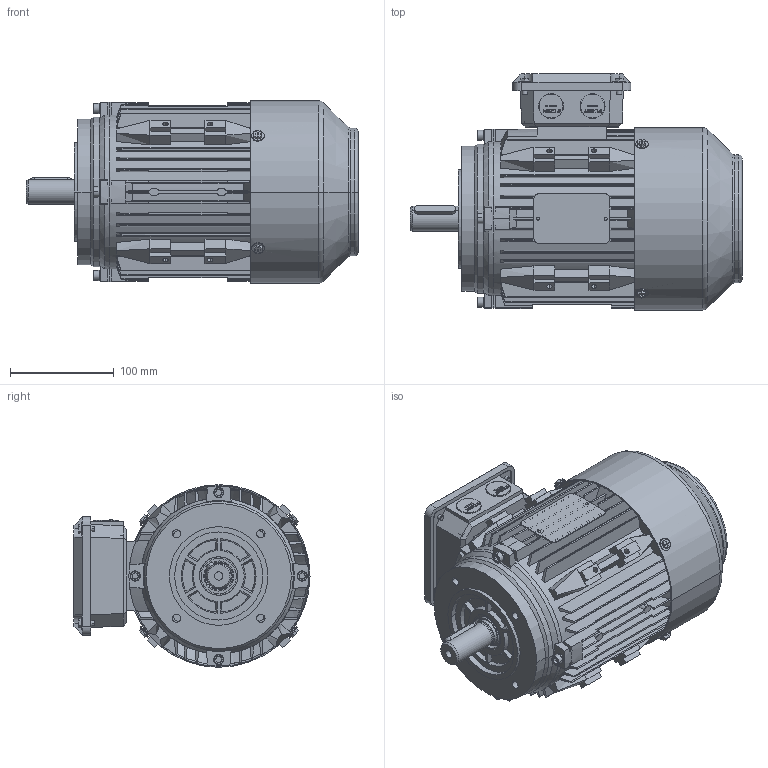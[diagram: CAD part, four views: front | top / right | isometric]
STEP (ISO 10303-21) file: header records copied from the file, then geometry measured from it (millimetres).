
FILE_DESCRIPTION (( 'STEP AP203' ), '1' );
FILE_NAME ('TC 90S B14 装配体.STEP', '2014-05-12T07:12:55', ( '微软用户' ), ( '微软中国' ), 'SwSTEP 2.0', 'SolidWorks 2008', '' );
FILE_SCHEMA (( 'CONFIG_CONTROL_DESIGN' ));
Products named in the file (22): TC 90S 转子_默认; TC 90S B14 蚾饜极; T90-4无轴转子_默认; 6205_默认; TC 80-90风叶_默认; 风罩_默认; M6-20_默认; TC 90平键_默认; 油封25-37-7_默认; TC 90S 机座 B5_默认; TC 90 B3端盖_默认; T90-4定子铁心_默认; TC 90S转轴（波形垫在前）_默认; TC 90 B14端盖_默认; TC 90-100 接线盒座_默认; TC 90-100 接线盒盖_默认; 6_默认; 5_默认; 镜向M5-12_默认; 镜向5_默认; M5-12_默认; M20螺塞_默认
Assembly tree (46 placements, depth 3):
  TC 90S B14 蚾饜极
    6_默认  x8
    TC 90-100 接线盒座_默认
    TC 90S 转子_默认
      TC 90S转轴（波形垫在前）_默认
      T90-4无轴转子_默认
      6205_默认  x2
    TC 90S 机座 B5_默认
    T90-4定子铁心_默认
    油封25-37-7_默认  x2
    M5-12_默认  x6
    M20螺塞_默认  x2
    TC 80-90风叶_默认
    M6-20_默认  x8
    TC 90 B14端盖_默认
    5_默认  x2
    TC 90-100 接线盒盖_默认
    镜向5_默认  x2
    TC 90 B3端盖_默认
    镜向M5-12_默认  x2
    风罩_默认
    TC 90平键_默认
Bounding box: 320 x 227.5 x 176 mm (x, y, z)
Volume: 2076568.2 mm3; surface area: 841728.9 mm2
Topology: 49 solids, 50 shells, 3287 faces, 8799 edges, 5732 vertices
Faces by surface type: plane 1700, cylinder 1090, cone 238, bspline 136, torus 123
Entity records: 98193 total; most frequent: CARTESIAN_POINT 25218, ORIENTED_EDGE 14942, DIRECTION 14329, EDGE_CURVE 7471, AXIS2_PLACEMENT_3D 5023, VERTEX_POINT 4894, VECTOR 4283, LINE 4283
